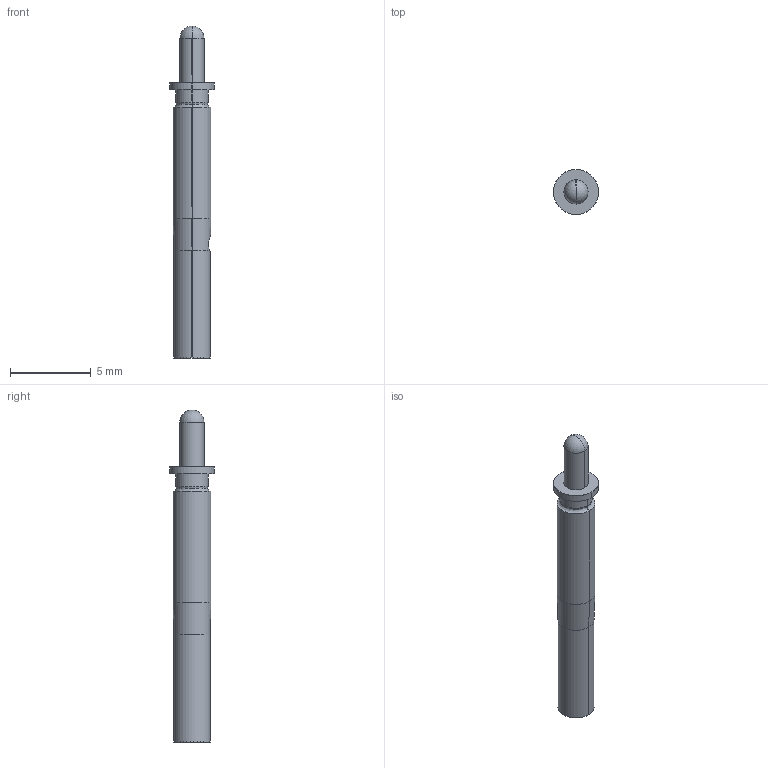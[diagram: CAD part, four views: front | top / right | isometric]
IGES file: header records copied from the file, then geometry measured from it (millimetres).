
Start section: SolidWorks IGES file using analytic representation for surfaces
Global section: file name: \\CODA-VM-SBS\RedirectedFolders\georged\My Documents\CODA CAD FILES\INTERFACING COMPONENTS\FRONT FITMENT\PD7 SERIES\PD7JS.IGS; native system: SolidWorks 2024; preprocessor: SolidWorks 2024; author: GeorgeD; date: 250220.130143; units: millimetre
Bounding box: 2.79 x 2.79 x 20.62 mm (x, y, z)
Surface area: 168.8 mm2 (no closed solid volume)
Topology: 0 solids, 0 shells, 30 faces, 344 edges, 340 vertices
Faces by surface type: revolution 22, bspline 8
